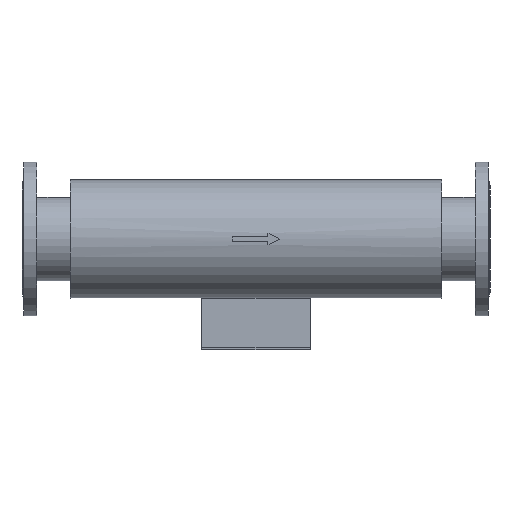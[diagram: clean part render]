
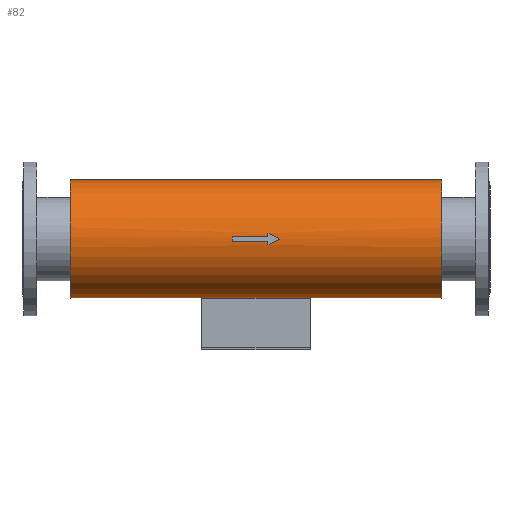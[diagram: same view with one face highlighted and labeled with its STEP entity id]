
A CAD part, front view. The second image highlights one B-rep face of the part: STEP entity #82.
In plain terms, the highlighted cylindrical face has radius 117.55 mm (diameter 235.1 mm), a partial arc.
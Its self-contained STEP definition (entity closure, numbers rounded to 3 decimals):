
#82=ADVANCED_FACE('',(#647,#648,#649),#646,.T.);
#646=CYLINDRICAL_SURFACE('',#1708,117.55);
#647=FACE_OUTER_BOUND('',#1709,.T.);
#648=FACE_BOUND('',#1710,.T.);
#649=FACE_BOUND('',#1711,.T.);
#1705=CARTESIAN_POINT('',(0.,0.,0.));
#1706=DIRECTION('',(1.,0.,0.));
#1707=DIRECTION('',(0.,0.009,1.));
#1708=AXIS2_PLACEMENT_3D('',#1705,#1706,#1707);
#1709=EDGE_LOOP('',(#2400,#2401,#2402,#2403,#2404,#2405));
#1710=EDGE_LOOP('',(#2406,#2407,#2408,#2409,#2410,#2411,#2412));
#1711=EDGE_LOOP('',(#2413,#2414,#2415,#2416));
#2400=ORIENTED_EDGE('',*,*,#2924,.T.);
#2401=ORIENTED_EDGE('',*,*,#2926,.T.);
#2402=ORIENTED_EDGE('',*,*,#2971,.F.);
#2403=ORIENTED_EDGE('',*,*,#2732,.F.);
#2404=ORIENTED_EDGE('',*,*,#2734,.F.);
#2405=ORIENTED_EDGE('',*,*,#2972,.T.);
#2406=ORIENTED_EDGE('',*,*,#2965,.F.);
#2407=ORIENTED_EDGE('',*,*,#2959,.F.);
#2408=ORIENTED_EDGE('',*,*,#2962,.F.);
#2409=ORIENTED_EDGE('',*,*,#2967,.F.);
#2410=ORIENTED_EDGE('',*,*,#2969,.F.);
#2411=ORIENTED_EDGE('',*,*,#2970,.F.);
#2412=ORIENTED_EDGE('',*,*,#2947,.F.);
#2413=ORIENTED_EDGE('',*,*,#2858,.F.);
#2414=ORIENTED_EDGE('',*,*,#2805,.T.);
#2415=ORIENTED_EDGE('',*,*,#2859,.T.);
#2416=ORIENTED_EDGE('',*,*,#2855,.T.);
#2732=EDGE_CURVE('',#3049,#3050,#3051,.T.);
#2734=EDGE_CURVE('',#3057,#3049,#3064,.T.);
#2805=EDGE_CURVE('',#3560,#3561,#3562,.T.);
#2855=EDGE_CURVE('',#3900,#3901,#3902,.T.);
#2858=EDGE_CURVE('',#3560,#3901,#3920,.T.);
#2859=EDGE_CURVE('',#3561,#3900,#3926,.T.);
#2924=EDGE_CURVE('',#4380,#4381,#4382,.T.);
#2926=EDGE_CURVE('',#4381,#4388,#4395,.T.);
#2947=EDGE_CURVE('',#4533,#4540,#4541,.T.);
#2959=EDGE_CURVE('',#4612,#4619,#4620,.T.);
#2962=EDGE_CURVE('',#4632,#4612,#4639,.T.);
#2965=EDGE_CURVE('',#4619,#4533,#4657,.T.);
#2967=EDGE_CURVE('',#4663,#4632,#4670,.T.);
#2969=EDGE_CURVE('',#4676,#4663,#4683,.T.);
#2970=EDGE_CURVE('',#4540,#4676,#4689,.T.);
#2971=EDGE_CURVE('',#3050,#4388,#4695,.T.);
#2972=EDGE_CURVE('',#3057,#4380,#4701,.T.);
#3049=VERTEX_POINT('',#5163);
#3050=VERTEX_POINT('',#5164);
#3051=CIRCLE('',#5168,117.55);
#3057=VERTEX_POINT('',#5169);
#3064=CIRCLE('',#5177,117.55);
#3560=VERTEX_POINT('',#5528);
#3561=VERTEX_POINT('',#5529);
#3562=LINE('',#5530,#5531);
#3900=VERTEX_POINT('',#5738);
#3901=VERTEX_POINT('',#5739);
#3902=LINE('',#5740,#5741);
#3920=CIRCLE('',#5752,117.55);
#3926=CIRCLE('',#5756,117.55);
#4380=VERTEX_POINT('',#6077);
#4381=VERTEX_POINT('',#6078);
#4382=CIRCLE('',#6082,117.55);
#4388=VERTEX_POINT('',#6083);
#4395=CIRCLE('',#6091,117.55);
#4533=VERTEX_POINT('',#6170);
#4540=VERTEX_POINT('',#6174);
#4541=LINE('',#6175,#6176);
#4612=VERTEX_POINT('',#6215);
#4619=VERTEX_POINT('',#6219);
#4620=(BOUNDED_CURVE() B_SPLINE_CURVE(2,(#6220,#6221,#6222),.UNSPECIFIED.,.F.,.F.) B_SPLINE_CURVE_WITH_KNOTS((3,3),(-1.571,-1.47),.UNSPECIFIED.) CURVE() GEOMETRIC_REPRESENTATION_ITEM() RATIONAL_B_SPLINE_CURVE((1.,0.999,1.)) REPRESENTATION_ITEM('') );
#4632=VERTEX_POINT('',#6226);
#4639=(BOUNDED_CURVE() B_SPLINE_CURVE(2,(#6230,#6231,#6232),.UNSPECIFIED.,.F.,.F.) B_SPLINE_CURVE_WITH_KNOTS((3,3),(1.47,1.571),.UNSPECIFIED.) CURVE() GEOMETRIC_REPRESENTATION_ITEM() RATIONAL_B_SPLINE_CURVE((1.,0.999,1.)) REPRESENTATION_ITEM('') );
#4657=CIRCLE('',#6242,117.55);
#4663=VERTEX_POINT('',#6243);
#4670=CIRCLE('',#6250,117.55);
#4676=VERTEX_POINT('',#6251);
#4683=LINE('',#6255,#6256);
#4689=CIRCLE('',#6261,117.55);
#4695=(BOUNDED_CURVE() B_SPLINE_CURVE(1,(#6262,#6263),.UNSPECIFIED.,.F.,.F.) B_SPLINE_CURVE_WITH_KNOTS((2,2),(0.013,0.987),.UNSPECIFIED.) CURVE() GEOMETRIC_REPRESENTATION_ITEM() RATIONAL_B_SPLINE_CURVE((1.,1.)) REPRESENTATION_ITEM('') );
#4701=(BOUNDED_CURVE() B_SPLINE_CURVE(1,(#6264,#6265),.UNSPECIFIED.,.F.,.F.) B_SPLINE_CURVE_WITH_KNOTS((2,2),(0.013,0.987),.UNSPECIFIED.) CURVE() GEOMETRIC_REPRESENTATION_ITEM() RATIONAL_B_SPLINE_CURVE((0.889,0.889)) REPRESENTATION_ITEM('') );
#5163=CARTESIAN_POINT('',(-369.,0.,117.55));
#5164=CARTESIAN_POINT('',(-369.,1.026,117.546));
#5165=CARTESIAN_POINT('',(-369.,0.,0.));
#5166=DIRECTION('',(-1.,0.,0.));
#5167=DIRECTION('',(0.,0.,1.));
#5168=AXIS2_PLACEMENT_3D('',#5165,#5166,#5167);
#5169=CARTESIAN_POINT('',(-369.,84.613,-81.601));
#5174=CARTESIAN_POINT('',(-369.,0.,0.));
#5175=DIRECTION('',(-1.,0.,0.));
#5176=DIRECTION('',(0.,0.,1.));
#5177=AXIS2_PLACEMENT_3D('',#5174,#5175,#5176);
#5528=CARTESIAN_POINT('',(107.5,4.5,-117.464));
#5529=CARTESIAN_POINT('',(-107.5,4.5,-117.464));
#5530=CARTESIAN_POINT('',(107.5,4.5,-117.464));
#5531=VECTOR('',#5532,215.);
#5532=DIRECTION('',(-1.,0.,0.));
#5738=CARTESIAN_POINT('',(-107.5,-4.5,-117.464));
#5739=CARTESIAN_POINT('',(107.5,-4.5,-117.464));
#5740=CARTESIAN_POINT('',(-107.5,-4.5,-117.464));
#5741=VECTOR('',#5742,215.);
#5742=DIRECTION('',(1.,0.,0.));
#5749=CARTESIAN_POINT('',(107.5,0.,0.));
#5750=DIRECTION('',(-1.,0.,0.));
#5751=DIRECTION('',(0.,0.,1.));
#5752=AXIS2_PLACEMENT_3D('',#5749,#5750,#5751);
#5753=CARTESIAN_POINT('',(-107.5,0.,0.));
#5754=DIRECTION('',(-1.,0.,0.));
#5755=DIRECTION('',(0.,0.,1.));
#5756=AXIS2_PLACEMENT_3D('',#5753,#5754,#5755);
#6077=CARTESIAN_POINT('',(369.,84.613,-81.601));
#6078=CARTESIAN_POINT('',(369.,0.,117.55));
#6079=CARTESIAN_POINT('',(369.,0.,0.));
#6080=DIRECTION('',(-1.,0.,0.));
#6081=DIRECTION('',(0.,0.,1.));
#6082=AXIS2_PLACEMENT_3D('',#6079,#6080,#6081);
#6083=CARTESIAN_POINT('',(369.,1.026,117.546));
#6088=CARTESIAN_POINT('',(369.,0.,0.));
#6089=DIRECTION('',(-1.,0.,0.));
#6090=DIRECTION('',(0.,0.,1.));
#6091=AXIS2_PLACEMENT_3D('',#6088,#6089,#6090);
#6170=CARTESIAN_POINT('',(23.75,-117.454,4.75));
#6174=CARTESIAN_POINT('',(-47.5,-117.454,4.75));
#6175=CARTESIAN_POINT('',(23.75,-117.454,4.75));
#6176=VECTOR('',#6177,71.25);
#6177=DIRECTION('',(-1.,0.,0.));
#6215=CARTESIAN_POINT('',(47.5,-117.55,0.));
#6219=CARTESIAN_POINT('',(23.75,-116.949,11.875));
#6220=CARTESIAN_POINT('',(47.5,-117.55,0.));
#6221=CARTESIAN_POINT('',(35.595,-117.55,5.953));
#6222=CARTESIAN_POINT('',(23.75,-116.949,11.875));
#6226=CARTESIAN_POINT('',(23.75,-116.949,-11.875));
#6230=CARTESIAN_POINT('',(23.75,-116.949,-11.875));
#6231=CARTESIAN_POINT('',(35.595,-117.55,-5.953));
#6232=CARTESIAN_POINT('',(47.5,-117.55,0.));
#6239=CARTESIAN_POINT('',(23.75,0.,0.));
#6240=DIRECTION('',(1.,0.,0.));
#6241=DIRECTION('',(0.,0.,-1.));
#6242=AXIS2_PLACEMENT_3D('',#6239,#6240,#6241);
#6243=CARTESIAN_POINT('',(23.75,-117.454,-4.75));
#6247=CARTESIAN_POINT('',(23.75,0.,0.));
#6248=DIRECTION('',(1.,0.,0.));
#6249=DIRECTION('',(0.,0.,-1.));
#6250=AXIS2_PLACEMENT_3D('',#6247,#6248,#6249);
#6251=CARTESIAN_POINT('',(-47.5,-117.454,-4.75));
#6255=CARTESIAN_POINT('',(-47.5,-117.454,-4.75));
#6256=VECTOR('',#6257,71.25);
#6257=DIRECTION('',(1.,0.,0.));
#6258=CARTESIAN_POINT('',(-47.5,0.,0.));
#6259=DIRECTION('',(1.,0.,0.));
#6260=DIRECTION('',(0.,0.,-1.));
#6261=AXIS2_PLACEMENT_3D('',#6258,#6259,#6260);
#6262=CARTESIAN_POINT('',(-369.,1.026,117.546));
#6263=CARTESIAN_POINT('',(369.,1.026,117.546));
#6264=CARTESIAN_POINT('',(-369.,84.613,-81.601));
#6265=CARTESIAN_POINT('',(369.,84.613,-81.601));
